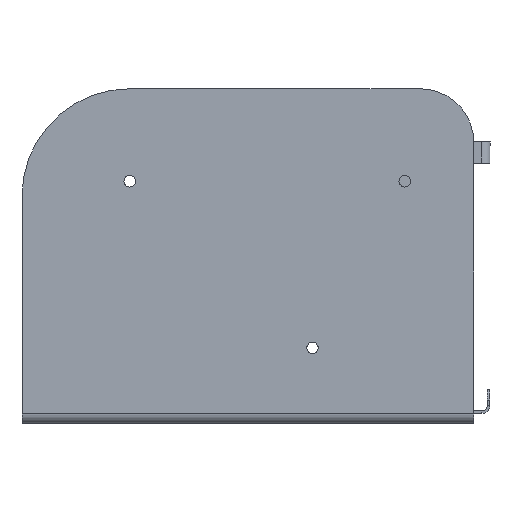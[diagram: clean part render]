
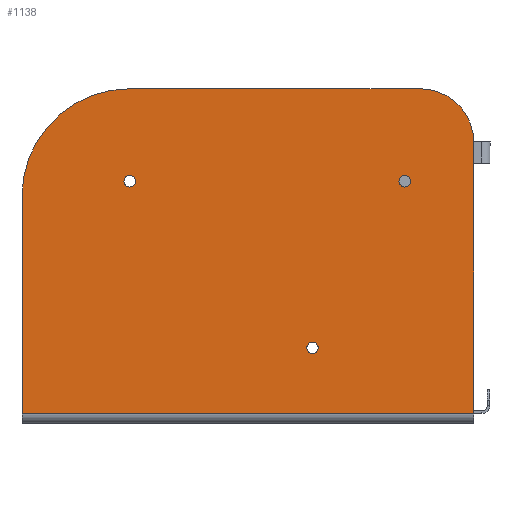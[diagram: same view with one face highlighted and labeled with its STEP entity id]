
A CAD part, left-side view. The second image highlights one B-rep face of the part: STEP entity #1138.
In plain terms, the highlighted planar face has unit normal (-1, 0, 0).
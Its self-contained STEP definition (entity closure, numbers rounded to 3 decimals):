
#153 = DIRECTION ( 'NONE',  ( 0., 0., -1. ) ) ;
#154 = VERTEX_POINT ( 'NONE', #2890 ) ;
#183 = VERTEX_POINT ( 'NONE', #3346 ) ;
#188 = PLANE ( 'NONE',  #1247 ) ;
#226 = CIRCLE ( 'NONE', #606, 10.75 ) ;
#264 = AXIS2_PLACEMENT_3D ( 'NONE', #2183, #837, #2211 ) ;
#267 = AXIS2_PLACEMENT_3D ( 'NONE', #2489, #2037, #3882 ) ;
#371 = ORIENTED_EDGE ( 'NONE', *, *, #4202, .T. ) ;
#407 = CARTESIAN_POINT ( 'NONE',  ( 72909.937, 54465.588, 439.156 ) ) ;
#464 = EDGE_CURVE ( 'NONE', #5034, #2802, #2687, .T. ) ;
#502 = CARTESIAN_POINT ( 'NONE',  ( 72909.937, 54977.385, 421.906 ) ) ;
#541 = EDGE_CURVE ( 'NONE', #4333, #4855, #3119, .T. ) ;
#606 = AXIS2_PLACEMENT_3D ( 'NONE', #987, #5609, #958 ) ;
#667 = FACE_OUTER_BOUND ( 'NONE', #4548, .T. ) ;
#668 = CARTESIAN_POINT ( 'NONE',  ( 72909.937, 54977.088, 460.656 ) ) ;
#670 = EDGE_LOOP ( 'NONE', ( #1400, #3290 ) ) ;
#727 = ORIENTED_EDGE ( 'NONE', *, *, #4186, .T. ) ;
#746 = CIRCLE ( 'NONE', #267, 10.75 ) ;
#752 = DIRECTION ( 'NONE',  ( 1., 0., 0. ) ) ;
#837 = DIRECTION ( 'NONE',  ( 1., 0., 0. ) ) ;
#894 = CARTESIAN_POINT ( 'NONE',  ( 72909.937, 0., 18.1 ) ) ;
#951 = EDGE_LOOP ( 'NONE', ( #5037, #371 ) ) ;
#958 = DIRECTION ( 'NONE',  ( 0., 0., -1. ) ) ;
#971 = CARTESIAN_POINT ( 'NONE',  ( 72909.937, 54337.088, 18.1 ) ) ;
#987 = CARTESIAN_POINT ( 'NONE',  ( 72909.937, 54977.088, 449.906 ) ) ;
#1106 = AXIS2_PLACEMENT_3D ( 'NONE', #3271, #3689, #3326 ) ;
#1138 = ADVANCED_FACE ( 'NONE', ( #2286, #1154, #4397, #667 ), #188, .F. ) ;
#1154 = FACE_BOUND ( 'NONE', #951, .T. ) ;
#1180 = DIRECTION ( 'NONE',  ( 0., 1., 0. ) ) ;
#1247 = AXIS2_PLACEMENT_3D ( 'NONE', #3010, #3437, #1982 ) ;
#1351 = DIRECTION ( 'NONE',  ( 0., 0., -1. ) ) ;
#1386 = EDGE_CURVE ( 'NONE', #154, #2549, #2963, .T. ) ;
#1400 = ORIENTED_EDGE ( 'NONE', *, *, #1386, .T. ) ;
#1490 = ORIENTED_EDGE ( 'NONE', *, *, #3000, .T. ) ;
#1601 = ORIENTED_EDGE ( 'NONE', *, *, #1660, .T. ) ;
#1660 = EDGE_CURVE ( 'NONE', #2802, #4855, #3513, .T. ) ;
#1753 = DIRECTION ( 'NONE',  ( 0., -1., 0. ) ) ;
#1844 = VERTEX_POINT ( 'NONE', #5852 ) ;
#1864 = AXIS2_PLACEMENT_3D ( 'NONE', #3098, #4930, #2551 ) ;
#1982 = DIRECTION ( 'NONE',  ( 0., 0., -1. ) ) ;
#2037 = DIRECTION ( 'NONE',  ( 1., 0., 0. ) ) ;
#2055 = VECTOR ( 'NONE', #1753, 1000. ) ;
#2061 = VERTEX_POINT ( 'NONE', #5274 ) ;
#2151 = DIRECTION ( 'NONE',  ( 0., 0., 1. ) ) ;
#2183 = CARTESIAN_POINT ( 'NONE',  ( 72909.937, 54465.588, 449.906 ) ) ;
#2187 = AXIS2_PLACEMENT_3D ( 'NONE', #4599, #752, #5915 ) ;
#2197 = CARTESIAN_POINT ( 'NONE',  ( 72909.937, 55177.385, 421.906 ) ) ;
#2211 = DIRECTION ( 'NONE',  ( 0., 0., -1. ) ) ;
#2286 = FACE_BOUND ( 'NONE', #670, .T. ) ;
#2301 = CARTESIAN_POINT ( 'NONE',  ( 72909.937, 54337.088, 521.906 ) ) ;
#2342 = CIRCLE ( 'NONE', #1864, 10.75 ) ;
#2368 = CIRCLE ( 'NONE', #2461, 200. ) ;
#2461 = AXIS2_PLACEMENT_3D ( 'NONE', #502, #3213, #1351 ) ;
#2489 = CARTESIAN_POINT ( 'NONE',  ( 72909.937, 54637.088, 139.906 ) ) ;
#2549 = VERTEX_POINT ( 'NONE', #668 ) ;
#2551 = DIRECTION ( 'NONE',  ( 0., 0., -1. ) ) ;
#2570 = CARTESIAN_POINT ( 'NONE',  ( 72909.937, 54337.088, 72931.843 ) ) ;
#2579 = LINE ( 'NONE', #5827, #4604 ) ;
#2595 = EDGE_CURVE ( 'NONE', #1844, #5768, #2342, .T. ) ;
#2687 = LINE ( 'NONE', #894, #2055 ) ;
#2769 = VECTOR ( 'NONE', #2151, 1000. ) ;
#2802 = VERTEX_POINT ( 'NONE', #971 ) ;
#2860 = ORIENTED_EDGE ( 'NONE', *, *, #4850, .F. ) ;
#2881 = DIRECTION ( 'NONE',  ( 0., 0., -1. ) ) ;
#2890 = CARTESIAN_POINT ( 'NONE',  ( 72909.937, 54977.088, 439.156 ) ) ;
#2963 = CIRCLE ( 'NONE', #2187, 10.75 ) ;
#3000 = EDGE_CURVE ( 'NONE', #4333, #183, #2579, .T. ) ;
#3010 = CARTESIAN_POINT ( 'NONE',  ( 72909.937, 0., 72931.843 ) ) ;
#3098 = CARTESIAN_POINT ( 'NONE',  ( 72909.937, 54637.088, 139.906 ) ) ;
#3119 = CIRCLE ( 'NONE', #1106, 100. ) ;
#3213 = DIRECTION ( 'NONE',  ( 1., 0., 0. ) ) ;
#3271 = CARTESIAN_POINT ( 'NONE',  ( 72909.937, 54437.088, 521.906 ) ) ;
#3281 = CARTESIAN_POINT ( 'NONE',  ( 72909.937, 54465.588, 449.906 ) ) ;
#3290 = ORIENTED_EDGE ( 'NONE', *, *, #3784, .T. ) ;
#3326 = DIRECTION ( 'NONE',  ( 0., 0., -1. ) ) ;
#3342 = EDGE_CURVE ( 'NONE', #2061, #3602, #5259, .T. ) ;
#3346 = CARTESIAN_POINT ( 'NONE',  ( 72909.937, 54977.385, 621.906 ) ) ;
#3392 = CARTESIAN_POINT ( 'NONE',  ( 72909.937, 55177.385, 18.1 ) ) ;
#3437 = DIRECTION ( 'NONE',  ( 1., 0., 0. ) ) ;
#3513 = LINE ( 'NONE', #2570, #2769 ) ;
#3602 = VERTEX_POINT ( 'NONE', #407 ) ;
#3689 = DIRECTION ( 'NONE',  ( 1., 0., 0. ) ) ;
#3784 = EDGE_CURVE ( 'NONE', #2549, #154, #226, .T. ) ;
#3815 = DIRECTION ( 'NONE',  ( 1., 0., 0. ) ) ;
#3882 = DIRECTION ( 'NONE',  ( 0., 0., -1. ) ) ;
#4100 = CARTESIAN_POINT ( 'NONE',  ( 72909.937, 54437.088, 621.906 ) ) ;
#4103 = ORIENTED_EDGE ( 'NONE', *, *, #464, .T. ) ;
#4115 = AXIS2_PLACEMENT_3D ( 'NONE', #3281, #3815, #2881 ) ;
#4186 = EDGE_CURVE ( 'NONE', #5740, #5034, #4282, .T. ) ;
#4191 = CARTESIAN_POINT ( 'NONE',  ( 72909.937, 54637.088, 150.656 ) ) ;
#4202 = EDGE_CURVE ( 'NONE', #5768, #1844, #746, .T. ) ;
#4282 = LINE ( 'NONE', #5230, #4306 ) ;
#4306 = VECTOR ( 'NONE', #153, 1000. ) ;
#4333 = VERTEX_POINT ( 'NONE', #4100 ) ;
#4361 = EDGE_LOOP ( 'NONE', ( #5378, #5597 ) ) ;
#4397 = FACE_BOUND ( 'NONE', #4361, .T. ) ;
#4548 = EDGE_LOOP ( 'NONE', ( #727, #4103, #1601, #5069, #1490, #2860 ) ) ;
#4599 = CARTESIAN_POINT ( 'NONE',  ( 72909.937, 54977.088, 449.906 ) ) ;
#4604 = VECTOR ( 'NONE', #1180, 1000. ) ;
#4794 = EDGE_CURVE ( 'NONE', #3602, #2061, #5157, .T. ) ;
#4850 = EDGE_CURVE ( 'NONE', #5740, #183, #2368, .T. ) ;
#4855 = VERTEX_POINT ( 'NONE', #2301 ) ;
#4930 = DIRECTION ( 'NONE',  ( 1., 0., 0. ) ) ;
#5034 = VERTEX_POINT ( 'NONE', #3392 ) ;
#5037 = ORIENTED_EDGE ( 'NONE', *, *, #2595, .T. ) ;
#5069 = ORIENTED_EDGE ( 'NONE', *, *, #541, .F. ) ;
#5157 = CIRCLE ( 'NONE', #264, 10.75 ) ;
#5230 = CARTESIAN_POINT ( 'NONE',  ( 72909.937, 55177.385, 72931.843 ) ) ;
#5259 = CIRCLE ( 'NONE', #4115, 10.75 ) ;
#5274 = CARTESIAN_POINT ( 'NONE',  ( 72909.937, 54465.588, 460.656 ) ) ;
#5378 = ORIENTED_EDGE ( 'NONE', *, *, #4794, .T. ) ;
#5597 = ORIENTED_EDGE ( 'NONE', *, *, #3342, .T. ) ;
#5609 = DIRECTION ( 'NONE',  ( 1., 0., 0. ) ) ;
#5740 = VERTEX_POINT ( 'NONE', #2197 ) ;
#5768 = VERTEX_POINT ( 'NONE', #4191 ) ;
#5827 = CARTESIAN_POINT ( 'NONE',  ( 72909.937, 0., 621.906 ) ) ;
#5852 = CARTESIAN_POINT ( 'NONE',  ( 72909.937, 54637.088, 129.156 ) ) ;
#5915 = DIRECTION ( 'NONE',  ( 0., 0., -1. ) ) ;
